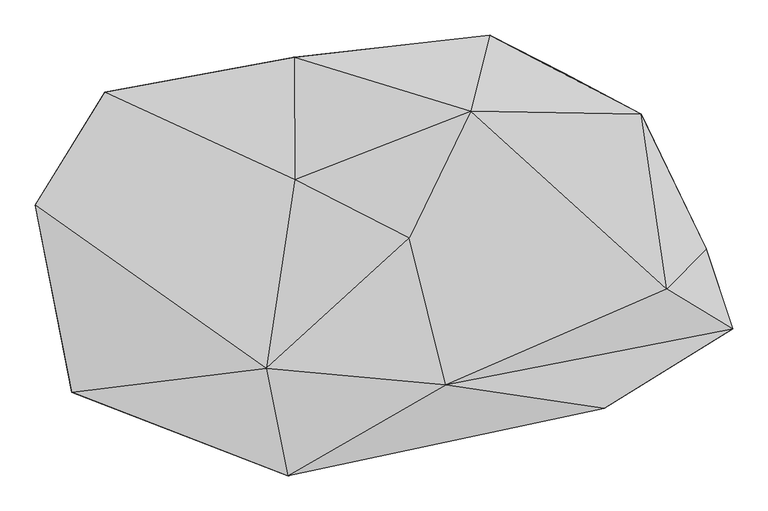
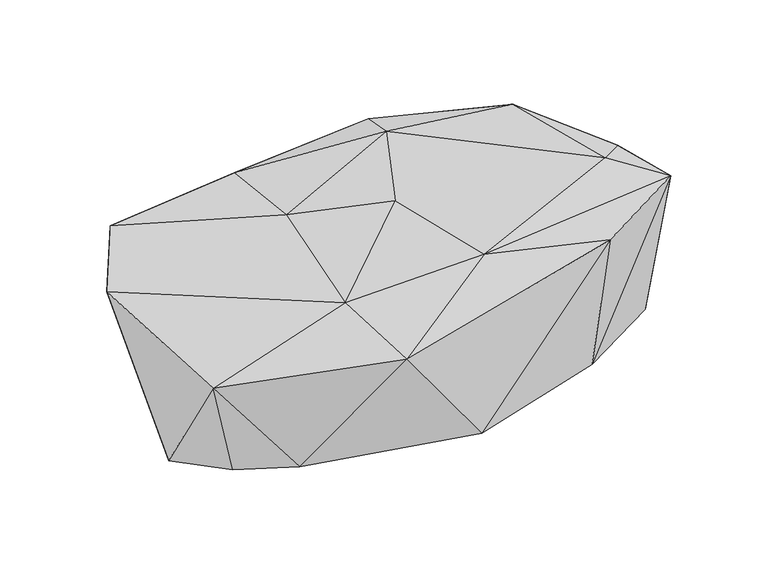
"""IFC4 building model written with IfcOpenShell, lengths in millimetres: geographic element geometry, Enscape AssetDefinition - Flower 006 Chinese Violet : Enscape AssetDefinition - Flower 006 Chinese Violet 3."""

from ifc_helpers import new_model, si_unit, origin, place, context, project, spatial, triangles, source, transform, mapped, element, save


def geographic_element_49e3a4d5(model_context):
    return source(origin(), model_context, "Body", "Tessellation", [
        triangles([(384.0005073, -28.623321, 300.0000023), (104.3713364, 224.9262962, 298.6077544), (17.0425417, 43.8788442, 295.9732495), (347.6034193, 220.5220774, 271.5053753), (131.6822239, 333.7899456, 249.1332125), (-516.9881747, 91.2030359, 267.2726576), (-187.5503072, -142.4787669, 271.3488805), (-147.4648543, 301.8908752, 254.5460362), (-146.5761549, 127.2622266, 273.8956727), (-286.7123868, 258.9788325, 0.0), (-417.6783571, 252.0680443, 270.5190619), (91.5800569, 304.9337128, 0.0), (236.1975559, 279.7748197, 0.0), (361.3283446, 126.926791, -0.6051367), (440.6378932, 28.2511871, 271.2162941), (433.9814318, -76.5917003, 0.0), (478.4166919, -85.6070021, 264.5794899), (276.1096364, -171.8963209, 0.0), (294.6885351, -199.3462079, 266.4146976), (13.2227496, -254.3087324, 0.0), (68.6782253, -165.9674858, 294.8375085), (-464.4757914, -176.0775155, 212.1435917), (-156.2385738, -295.6801897, 236.59368), (-302.0291299, -186.0951635, 0.0), (-403.9486356, -137.1528565, 0.0), (-484.0490516, -60.7885951, 0.0)], [[6, 11, 10], [26, 6, 10], [22, 6, 26], [22, 25, 24], [25, 22, 26], [7, 6, 22], [23, 24, 20], [24, 23, 22], [7, 22, 23], [23, 21, 7], [20, 19, 23], [21, 23, 19], [19, 20, 18], [18, 17, 19], [21, 19, 17], [17, 1, 21], [17, 18, 16], [16, 15, 17], [1, 15, 4], [1, 17, 15], [15, 16, 14], [14, 4, 15], [4, 14, 13], [5, 13, 12], [13, 5, 4], [8, 12, 10], [10, 11, 8], [12, 8, 5], [9, 11, 6], [9, 8, 11], [6, 7, 9], [2, 5, 8], [2, 4, 5], [8, 9, 2], [4, 2, 1], [3, 21, 1], [3, 7, 21], [3, 9, 7], [3, 2, 9], [3, 1, 2]], closed=False),
    ])


if __name__ == "__main__":
    model = new_model("IFC4")
    model_context = context("Model", 3, world=origin())
    ifc_project = project(units=[si_unit("LENGTHUNIT", "METRE", prefix="MILLI")], contexts=[model_context])
    site = spatial("IfcSite", under=ifc_project)
    building = spatial("IfcBuilding", under=site)
    placement = place(None, origin())
    geographic_element_shape = geographic_element_49e3a4d5(model_context)
    element("IfcGeographicElement", 1, ObjectType="Enscape AssetDefinition - Flower 006 Chinese Violet : Enscape AssetDefinition - Flower 006 Chinese Violet 3", at=placement, inside=building, context=model_context, shape_type="MappedRepresentation", body=[
        mapped(geographic_element_shape, transform((0.0, 0.0, 0.0), x_axis=(1.0, 0.0, 0.0), y_axis=(0.0, 1.0, 0.0), z_axis=(0.0, 0.0, 1.0))),
    ])
    save(model, "model.ifc")
